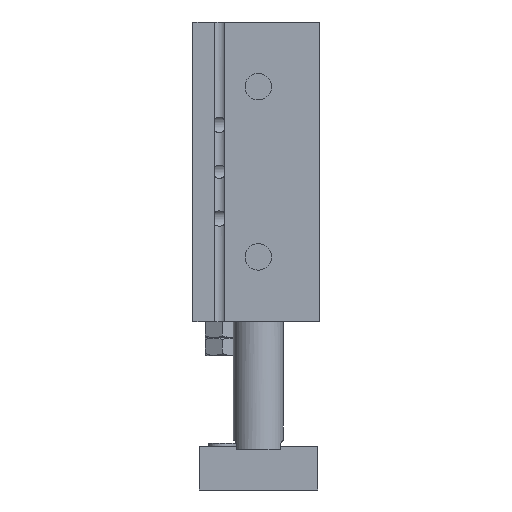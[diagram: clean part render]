
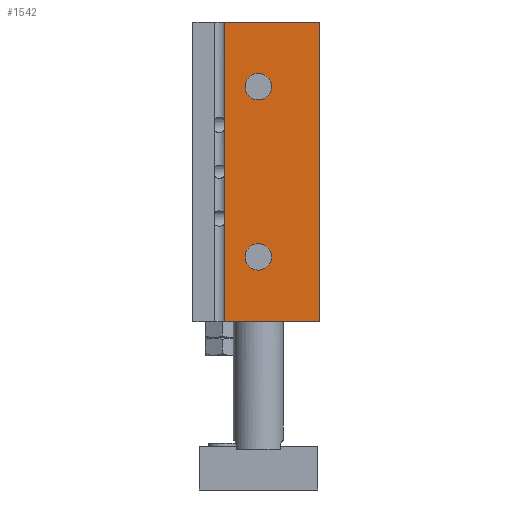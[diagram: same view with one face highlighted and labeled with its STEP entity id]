
A CAD part, front view. The second image highlights one B-rep face of the part: STEP entity #1542.
In plain terms, the highlighted planar face has unit normal (0, -1, 0).
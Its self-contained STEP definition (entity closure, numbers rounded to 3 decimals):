
#1380=CARTESIAN_POINT('',(-11.,-48.,150.0));
#1381=VERTEX_POINT('',#1380);
#1389=CARTESIAN_POINT('',(-11.,-48.,54.));
#1390=VERTEX_POINT('',#1389);
#1397=CARTESIAN_POINT('',(-11.,-48.,150.0));
#1398=DIRECTION('',(0.0,0.0,-1.0));
#1399=VECTOR('',#1398,96.);
#1400=LINE('',#1397,#1399);
#1401=EDGE_CURVE('',#1381,#1390,#1400,.T.);
#1490=CARTESIAN_POINT('',(19.5,-48.,54.));
#1491=DIRECTION('',(0.0,-1.0,0.0));
#1492=DIRECTION('',(0.0,0.0,-1.0));
#1493=AXIS2_PLACEMENT_3D('',#1490,#1491,#1492);
#1494=PLANE('',#1493);
#1495=ORIENTED_EDGE('',*,*,#1401,.T.);
#1496=CARTESIAN_POINT('',(19.5,-48.,54.));
#1497=VERTEX_POINT('',#1496);
#1498=CARTESIAN_POINT('',(19.5,-48.,54.));
#1499=DIRECTION('',(-1.0,0.0,0.0));
#1500=VECTOR('',#1499,30.5);
#1501=LINE('',#1498,#1500);
#1502=EDGE_CURVE('',#1497,#1390,#1501,.T.);
#1503=ORIENTED_EDGE('',*,*,#1502,.F.);
#1504=CARTESIAN_POINT('',(19.5,-48.,150.0));
#1505=VERTEX_POINT('',#1504);
#1506=CARTESIAN_POINT('',(19.5,-48.,54.));
#1507=DIRECTION('',(0.0,0.0,1.0));
#1508=VECTOR('',#1507,96.0);
#1509=LINE('',#1506,#1508);
#1510=EDGE_CURVE('',#1497,#1505,#1509,.T.);
#1511=ORIENTED_EDGE('',*,*,#1510,.T.);
#1512=CARTESIAN_POINT('',(19.5,-48.,150.0));
#1513=DIRECTION('',(-1.0,0.0,0.0));
#1514=VECTOR('',#1513,30.5);
#1515=LINE('',#1512,#1514);
#1516=EDGE_CURVE('',#1505,#1381,#1515,.T.);
#1517=ORIENTED_EDGE('',*,*,#1516,.T.);
#1518=EDGE_LOOP('',(#1495,#1503,#1511,#1517));
#1519=FACE_OUTER_BOUND('',#1518,.T.);
#1520=CARTESIAN_POINT('',(4.25,-48.,129.3));
#1521=VERTEX_POINT('',#1520);
#1522=CARTESIAN_POINT('',(0.0,-48.,129.3));
#1523=DIRECTION('',(0.0,1.0,0.0));
#1524=DIRECTION('',(-1.0,0.0,0.0));
#1525=AXIS2_PLACEMENT_3D('',#1522,#1523,#1524);
#1526=CIRCLE('',#1525,4.25);
#1527=EDGE_CURVE('',#1521,#1521,#1526,.T.);
#1528=ORIENTED_EDGE('',*,*,#1527,.T.);
#1529=EDGE_LOOP('',(#1528));
#1530=FACE_BOUND('',#1529,.T.);
#1531=CARTESIAN_POINT('',(4.25,-48.,74.7));
#1532=VERTEX_POINT('',#1531);
#1533=CARTESIAN_POINT('',(0.0,-48.,74.7));
#1534=DIRECTION('',(0.0,1.0,0.0));
#1535=DIRECTION('',(-1.0,0.0,0.0));
#1536=AXIS2_PLACEMENT_3D('',#1533,#1534,#1535);
#1537=CIRCLE('',#1536,4.25);
#1538=EDGE_CURVE('',#1532,#1532,#1537,.T.);
#1539=ORIENTED_EDGE('',*,*,#1538,.T.);
#1540=EDGE_LOOP('',(#1539));
#1541=FACE_BOUND('',#1540,.T.);
#1542=ADVANCED_FACE('',(#1519,#1530,#1541),#1494,.T.);
